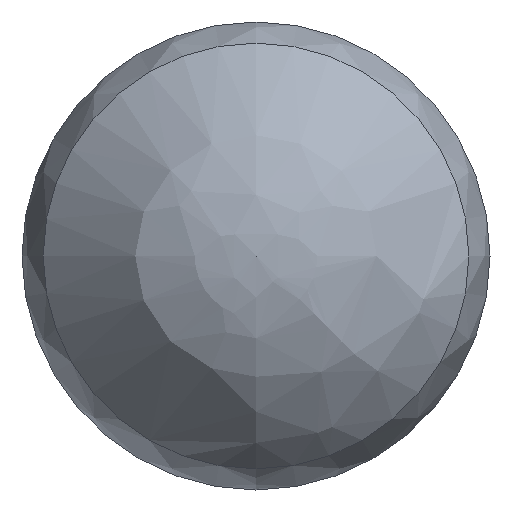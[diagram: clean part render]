
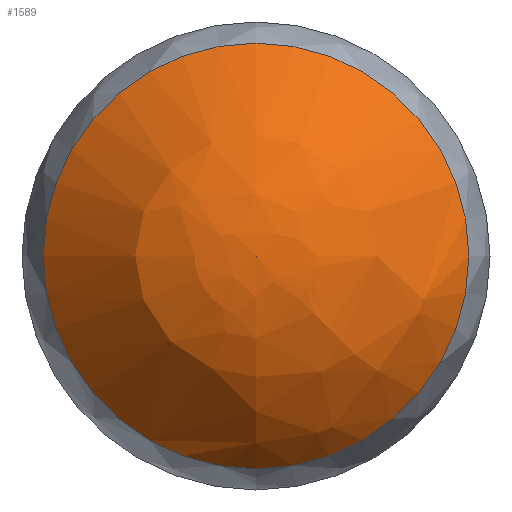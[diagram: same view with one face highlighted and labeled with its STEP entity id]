
A CAD part, front view. The second image highlights one B-rep face of the part: STEP entity #1589.
In plain terms, the highlighted free-form (B-spline) face has degree [2, 2] with [3, 9] control points.
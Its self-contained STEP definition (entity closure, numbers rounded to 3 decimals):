
#65=(
BOUNDED_SURFACE()
B_SPLINE_SURFACE(2,2,((#2540,#2541,#2542,#2543,#2544,#2545,#2546,#2547,
#2548),(#2549,#2550,#2551,#2552,#2553,#2554,#2555,#2556,#2557),(#2558,#2559,
#2560,#2561,#2562,#2563,#2564,#2565,#2566)),.UNSPECIFIED.,.F.,.T.,.F.)
B_SPLINE_SURFACE_WITH_KNOTS((3,3),(3,2,2,2,3),(-1.575,-0.586),
(-3.142,-1.571,0.,1.571,3.142),
 .UNSPECIFIED.)
GEOMETRIC_REPRESENTATION_ITEM()
RATIONAL_B_SPLINE_SURFACE(((1.,0.707,1.,0.707,1.,
0.707,1.,0.707,1.),(0.88,0.622,
0.88,0.622,0.88,0.622,
0.88,0.622,0.88),(1.,0.707,
1.,0.707,1.,0.707,1.,0.707,1.)))
REPRESENTATION_ITEM('')
SURFACE()
);
#184=FACE_OUTER_BOUND('',#264,.T.);
#264=EDGE_LOOP('',(#1142,#1143,#1144));
#369=CIRCLE('',#1730,10.051);
#370=CIRCLE('',#1731,12.);
#637=VERTEX_POINT('',#2537);
#638=VERTEX_POINT('',#2567);
#827=EDGE_CURVE('',#637,#637,#369,.T.);
#828=EDGE_CURVE('',#637,#638,#370,.T.);
#1142=ORIENTED_EDGE('',*,*,#827,.F.);
#1143=ORIENTED_EDGE('',*,*,#828,.T.);
#1144=ORIENTED_EDGE('',*,*,#828,.F.);
#1589=ADVANCED_FACE('',(#184),#65,.F.);
#1730=AXIS2_PLACEMENT_3D('',#2539,#1988,#1989);
#1731=AXIS2_PLACEMENT_3D('',#2568,#1990,#1991);
#1988=DIRECTION('center_axis',(0.,1.,0.));
#1989=DIRECTION('ref_axis',(1.,0.,0.));
#1990=DIRECTION('center_axis',(-1.,0.,0.));
#1991=DIRECTION('ref_axis',(0.,0.,-1.));
#2537=CARTESIAN_POINT('',(0.,5.367,-10.051));
#2539=CARTESIAN_POINT('Origin',(0.,5.367,0.));
#2540=CARTESIAN_POINT('Ctrl Pts',(0.,0.,0.));
#2541=CARTESIAN_POINT('Ctrl Pts',(0.,0.,
0.));
#2542=CARTESIAN_POINT('Ctrl Pts',(0.,0.,
0.));
#2543=CARTESIAN_POINT('Ctrl Pts',(0.,0.,
0.));
#2544=CARTESIAN_POINT('Ctrl Pts',(0.,0.,0.));
#2545=CARTESIAN_POINT('Ctrl Pts',(0.,0.,
0.));
#2546=CARTESIAN_POINT('Ctrl Pts',(0.,0.,
0.));
#2547=CARTESIAN_POINT('Ctrl Pts',(0.,0.,
0.));
#2548=CARTESIAN_POINT('Ctrl Pts',(0.,0.,0.));
#2549=CARTESIAN_POINT('Ctrl Pts',(0.,-0.027,-6.473));
#2550=CARTESIAN_POINT('Ctrl Pts',(-6.473,-0.027,
-6.473));
#2551=CARTESIAN_POINT('Ctrl Pts',(-6.473,-0.027,
0.));
#2552=CARTESIAN_POINT('Ctrl Pts',(-6.473,-0.027,
6.473));
#2553=CARTESIAN_POINT('Ctrl Pts',(0.,-0.027,6.473));
#2554=CARTESIAN_POINT('Ctrl Pts',(6.473,-0.027,
6.473));
#2555=CARTESIAN_POINT('Ctrl Pts',(6.473,-0.027,
0.));
#2556=CARTESIAN_POINT('Ctrl Pts',(6.473,-0.027,
-6.473));
#2557=CARTESIAN_POINT('Ctrl Pts',(0.,-0.027,-6.473));
#2558=CARTESIAN_POINT('Ctrl Pts',(0.,5.367,-10.051));
#2559=CARTESIAN_POINT('Ctrl Pts',(-10.051,5.367,-10.051));
#2560=CARTESIAN_POINT('Ctrl Pts',(-10.051,5.367,0.));
#2561=CARTESIAN_POINT('Ctrl Pts',(-10.051,5.367,10.051));
#2562=CARTESIAN_POINT('Ctrl Pts',(0.,5.367,10.051));
#2563=CARTESIAN_POINT('Ctrl Pts',(10.051,5.367,10.051));
#2564=CARTESIAN_POINT('Ctrl Pts',(10.051,5.367,0.));
#2565=CARTESIAN_POINT('Ctrl Pts',(10.051,5.367,-10.051));
#2566=CARTESIAN_POINT('Ctrl Pts',(0.,5.367,-10.051));
#2567=CARTESIAN_POINT('',(0.,0.,0.));
#2568=CARTESIAN_POINT('Origin',(0.,12.001,
-0.05));
